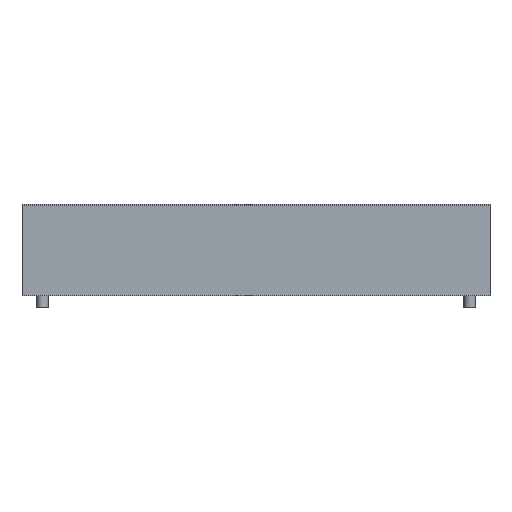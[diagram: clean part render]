
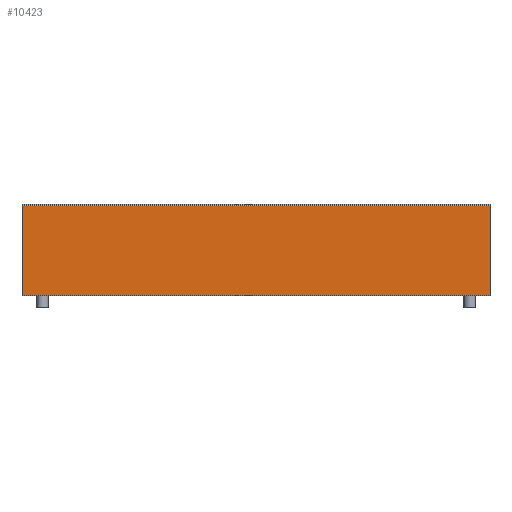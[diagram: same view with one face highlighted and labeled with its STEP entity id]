
A CAD part, left-side view. The second image highlights one B-rep face of the part: STEP entity #10423.
In plain terms, the highlighted planar face has unit normal (-1, 0, 0).
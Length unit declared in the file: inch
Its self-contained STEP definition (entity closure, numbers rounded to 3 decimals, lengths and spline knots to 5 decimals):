
#64 = VERTEX_POINT ( 'NONE', #7290 ) ;
#1039 = VECTOR ( 'NONE', #1593, 39.37008 ) ;
#1218 = LINE ( 'NONE', #5146, #16300 ) ;
#1593 = DIRECTION ( 'NONE',  ( 0., 0., -1. ) ) ;
#1821 = DIRECTION ( 'NONE',  ( 0., 1., 0. ) ) ;
#3429 = CARTESIAN_POINT ( 'NONE',  ( 0.89307, 4.48121, 3.93148 ) ) ;
#5146 = CARTESIAN_POINT ( 'NONE',  ( 0.89307, 4.48121, 3.03148 ) ) ;
#5857 = CARTESIAN_POINT ( 'NONE',  ( 0.89307, 4.48121, 3.93148 ) ) ;
#5894 = CARTESIAN_POINT ( 'NONE',  ( 0.89307, 4.48121, 3.03148 ) ) ;
#6742 = CARTESIAN_POINT ( 'NONE',  ( 0.89307, 4.48121, 3.91648 ) ) ;
#7290 = CARTESIAN_POINT ( 'NONE',  ( 0.89307, -0.11879, 3.03148 ) ) ;
#7595 = ORIENTED_EDGE ( 'NONE', *, *, #27141, .T. ) ;
#7884 = CARTESIAN_POINT ( 'NONE',  ( 0.89307, -0.11879, 3.93148 ) ) ;
#8463 = ORIENTED_EDGE ( 'NONE', *, *, #17028, .F. ) ;
#10320 = VECTOR ( 'NONE', #11139, 39.37008 ) ;
#10423 = ADVANCED_FACE ( 'NONE', ( #25620 ), #14684, .F. ) ;
#10429 = ORIENTED_EDGE ( 'NONE', *, *, #23014, .T. ) ;
#11139 = DIRECTION ( 'NONE',  ( 0., 1., 0. ) ) ;
#11992 = AXIS2_PLACEMENT_3D ( 'NONE', #5857, #25344, #1821 ) ;
#12069 = DIRECTION ( 'NONE',  ( 0., -1., 0. ) ) ;
#12092 = VERTEX_POINT ( 'NONE', #5894 ) ;
#12328 = VECTOR ( 'NONE', #20662, 39.37008 ) ;
#13209 = EDGE_CURVE ( 'NONE', #12092, #64, #1218, .T. ) ;
#14529 = CARTESIAN_POINT ( 'NONE',  ( 0.89307, -0.11879, 3.91648 ) ) ;
#14684 = PLANE ( 'NONE',  #11992 ) ;
#16300 = VECTOR ( 'NONE', #12069, 39.37008 ) ;
#17028 = EDGE_CURVE ( 'NONE', #25445, #64, #20766, .T. ) ;
#17567 = VERTEX_POINT ( 'NONE', #21099 ) ;
#20662 = DIRECTION ( 'NONE',  ( 0., 0., -1. ) ) ;
#20766 = LINE ( 'NONE', #7884, #1039 ) ;
#21099 = CARTESIAN_POINT ( 'NONE',  ( 0.89307, 4.48121, 3.91648 ) ) ;
#22746 = LINE ( 'NONE', #3429, #12328 ) ;
#23014 = EDGE_CURVE ( 'NONE', #17567, #12092, #22746, .T. ) ;
#24322 = EDGE_LOOP ( 'NONE', ( #8463, #7595, #10429, #25838 ) ) ;
#25344 = DIRECTION ( 'NONE',  ( 1., 0., 0. ) ) ;
#25445 = VERTEX_POINT ( 'NONE', #14529 ) ;
#25620 = FACE_OUTER_BOUND ( 'NONE', #24322, .T. ) ;
#25838 = ORIENTED_EDGE ( 'NONE', *, *, #13209, .T. ) ;
#26116 = LINE ( 'NONE', #6742, #10320 ) ;
#27141 = EDGE_CURVE ( 'NONE', #25445, #17567, #26116, .T. ) ;
